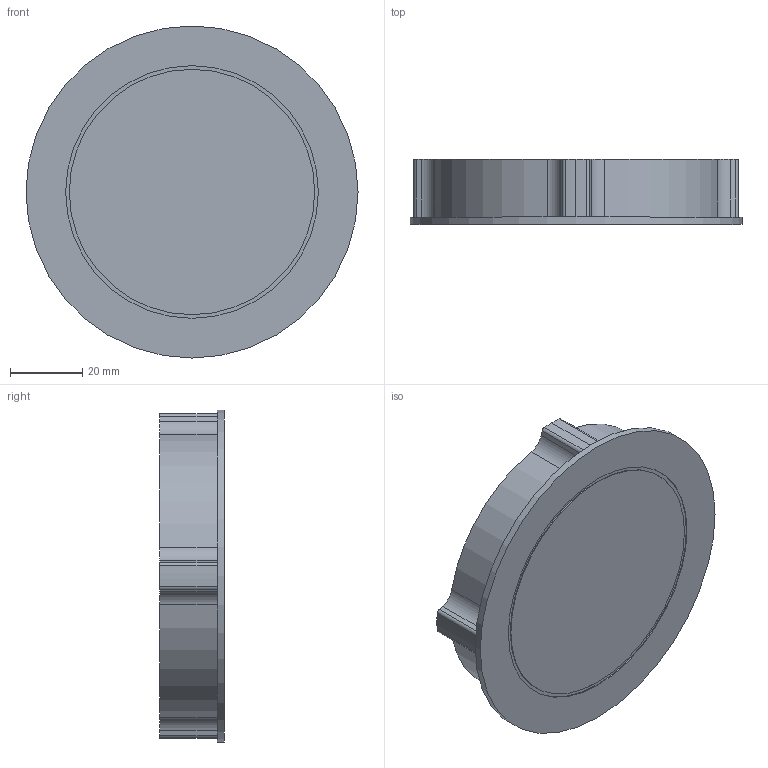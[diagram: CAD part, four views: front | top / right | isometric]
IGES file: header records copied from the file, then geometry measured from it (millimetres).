
Start section: Data from Parasolid IGES Translator 15.0.47, Copyright(c) 2006 Siemens P LM Software. All Rights Reserved.
Global section: file name: 9086690.igs; native system:  By UGS Corp.; preprocessor: XPlus GENERIC/IGES 3.0; author: Noname; organization: Noname; date: 20140122.180521; units: millimetre
Bounding box: 92 x 18 x 92 mm (x, y, z)
Surface area: 18644.8 mm2 (no closed solid volume)
Topology: 0 solids, 0 shells, 45 faces, 228 edges, 221 vertices
Faces by surface type: revolution 30, extrusion 15
